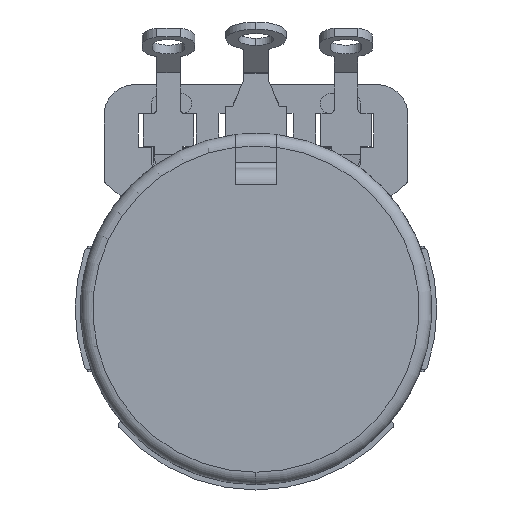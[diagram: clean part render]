
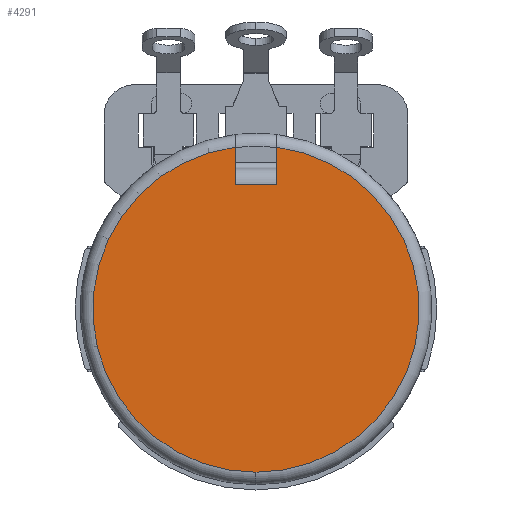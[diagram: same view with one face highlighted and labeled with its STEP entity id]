
A CAD part, front view. The second image highlights one B-rep face of the part: STEP entity #4291.
In plain terms, the highlighted planar face has unit normal (0, -1, 0).
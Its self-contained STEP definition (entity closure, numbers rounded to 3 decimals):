
#753 = CARTESIAN_POINT ( 'NONE',  ( 1.397, 0., 10.884 ) ) ;
#962 = LINE ( 'NONE', #13528, #9874 ) ;
#1056 = ORIENTED_EDGE ( 'NONE', *, *, #5286, .T. ) ;
#1218 = DIRECTION ( 'NONE',  ( 0., -1., 0. ) ) ;
#2452 = DIRECTION ( 'NONE',  ( 0., 0., -1. ) ) ;
#2724 = CARTESIAN_POINT ( 'NONE',  ( -1.397, 0., 8.382 ) ) ;
#2837 = ORIENTED_EDGE ( 'NONE', *, *, #17327, .T. ) ;
#3386 = DIRECTION ( 'NONE',  ( 0., -1., 0. ) ) ;
#3687 = VERTEX_POINT ( 'NONE', #5206 ) ;
#4291 = ADVANCED_FACE ( 'NONE', ( #18769 ), #4427, .T. ) ;
#4427 = PLANE ( 'NONE',  #18940 ) ;
#4531 = DIRECTION ( 'NONE',  ( 0., 0., 1. ) ) ;
#4721 = EDGE_CURVE ( 'NONE', #20677, #13485, #962, .T. ) ;
#4809 = CARTESIAN_POINT ( 'NONE',  ( 0., 0., -10.973 ) ) ;
#4870 = CIRCLE ( 'NONE', #7551, 10.973 ) ;
#4889 = VERTEX_POINT ( 'NONE', #4809 ) ;
#5206 = CARTESIAN_POINT ( 'NONE',  ( 1.397, 0., 8.382 ) ) ;
#5286 = EDGE_CURVE ( 'NONE', #20677, #4889, #4870, .T. ) ;
#5869 = DIRECTION ( 'NONE',  ( -1., 0., 0. ) ) ;
#6070 = LINE ( 'NONE', #2724, #6111 ) ;
#6111 = VECTOR ( 'NONE', #5869, 1000. ) ;
#6222 = ORIENTED_EDGE ( 'NONE', *, *, #10434, .T. ) ;
#6587 = EDGE_LOOP ( 'NONE', ( #11380, #2837, #19378, #1056, #6222 ) ) ;
#7068 = CARTESIAN_POINT ( 'NONE',  ( -1.397, 0., 10.884 ) ) ;
#7551 = AXIS2_PLACEMENT_3D ( 'NONE', #11366, #1218, #17007 ) ;
#8720 = CIRCLE ( 'NONE', #11405, 10.973 ) ;
#9003 = DIRECTION ( 'NONE',  ( 0., 0., -1. ) ) ;
#9827 = CARTESIAN_POINT ( 'NONE',  ( -1.397, 0., 8.382 ) ) ;
#9874 = VECTOR ( 'NONE', #9003, 1000. ) ;
#10434 = EDGE_CURVE ( 'NONE', #4889, #18448, #8720, .T. ) ;
#10822 = DIRECTION ( 'NONE',  ( 0., -1., 0. ) ) ;
#11366 = CARTESIAN_POINT ( 'NONE',  ( 0., 0., 0. ) ) ;
#11380 = ORIENTED_EDGE ( 'NONE', *, *, #18188, .F. ) ;
#11405 = AXIS2_PLACEMENT_3D ( 'NONE', #17712, #3386, #18984 ) ;
#12797 = CARTESIAN_POINT ( 'NONE',  ( 1.397, 0., 12.522 ) ) ;
#13485 = VERTEX_POINT ( 'NONE', #9827 ) ;
#13528 = CARTESIAN_POINT ( 'NONE',  ( -1.397, 0., 12.522 ) ) ;
#14472 = LINE ( 'NONE', #12797, #19839 ) ;
#16793 = CARTESIAN_POINT ( 'NONE',  ( -5.207, 0., 0. ) ) ;
#17007 = DIRECTION ( 'NONE',  ( 0., 0., -1. ) ) ;
#17327 = EDGE_CURVE ( 'NONE', #3687, #13485, #6070, .T. ) ;
#17712 = CARTESIAN_POINT ( 'NONE',  ( 0., 0., 0. ) ) ;
#18188 = EDGE_CURVE ( 'NONE', #3687, #18448, #14472, .T. ) ;
#18448 = VERTEX_POINT ( 'NONE', #753 ) ;
#18769 = FACE_OUTER_BOUND ( 'NONE', #6587, .T. ) ;
#18940 = AXIS2_PLACEMENT_3D ( 'NONE', #16793, #10822, #2452 ) ;
#18984 = DIRECTION ( 'NONE',  ( 0., 0., -1. ) ) ;
#19378 = ORIENTED_EDGE ( 'NONE', *, *, #4721, .F. ) ;
#19839 = VECTOR ( 'NONE', #4531, 1000. ) ;
#20677 = VERTEX_POINT ( 'NONE', #7068 ) ;
